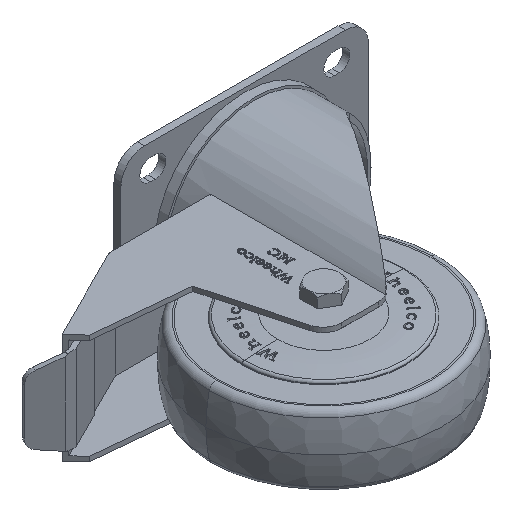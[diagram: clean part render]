
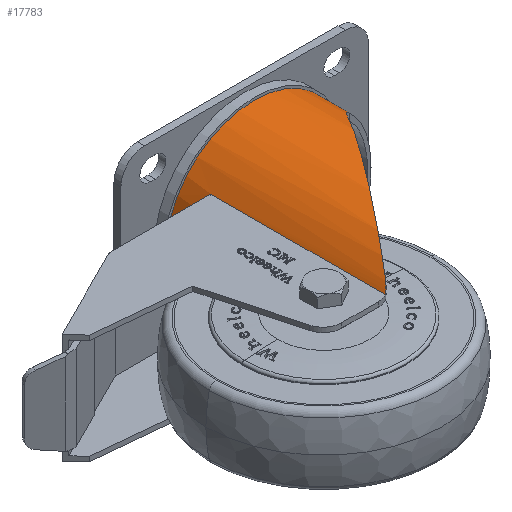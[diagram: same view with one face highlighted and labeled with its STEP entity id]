
A CAD part, isometric view. The second image highlights one B-rep face of the part: STEP entity #17783.
In plain terms, the highlighted cylindrical face has radius 37.5 mm (diameter 75 mm), a partial arc.
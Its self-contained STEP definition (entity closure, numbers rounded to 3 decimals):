
#585 = LINE ( 'NONE', #20040, #32704 ) ;
#615 = CARTESIAN_POINT ( 'NONE',  ( 30.98, 68.158, -21.134 ) ) ;
#692 = VERTEX_POINT ( 'NONE', #17096 ) ;
#955 = DIRECTION ( 'NONE',  ( 0., 1., 0. ) ) ;
#1334 = ORIENTED_EDGE ( 'NONE', *, *, #14805, .F. ) ;
#1385 = ORIENTED_EDGE ( 'NONE', *, *, #14216, .T. ) ;
#1421 = DIRECTION ( 'NONE',  ( 0., -1., 0. ) ) ;
#2099 = CARTESIAN_POINT ( 'NONE',  ( 39.691, 20.993, 13.851 ) ) ;
#2317 = CYLINDRICAL_SURFACE ( 'NONE', #31386, 37.5 ) ;
#2995 = CARTESIAN_POINT ( 'NONE',  ( 10.738, 74., -37.5 ) ) ;
#3076 = CARTESIAN_POINT ( 'NONE',  ( 25.608, 2.761, 27.396 ) ) ;
#3211 = VERTEX_POINT ( 'NONE', #25152 ) ;
#4776 = CIRCLE ( 'NONE', #23353, 37.5 ) ;
#5811 = CARTESIAN_POINT ( 'NONE',  ( 25.184, 2.342, 27.787 ) ) ;
#6432 = VECTOR ( 'NONE', #26967, 1000. ) ;
#6960 = VERTEX_POINT ( 'NONE', #10775 ) ;
#7902 = CARTESIAN_POINT ( 'NONE',  ( 41.736, 46.459, -5.038 ) ) ;
#8234 = VECTOR ( 'NONE', #1421, 1000. ) ;
#8633 = VERTEX_POINT ( 'NONE', #21045 ) ;
#9389 = LINE ( 'NONE', #21040, #8234 ) ;
#10328 = EDGE_LOOP ( 'NONE', ( #33128, #27545, #27990, #26689, #1385, #1334, #33146, #28547, #21351 ) ) ;
#10775 = CARTESIAN_POINT ( 'NONE',  ( 0., 74., -37.5 ) ) ;
#10968 = AXIS2_PLACEMENT_3D ( 'NONE', #29552, #12995, #15705 ) ;
#11033 = CARTESIAN_POINT ( 'NONE',  ( 0., 75., 37.5 ) ) ;
#11483 = VERTEX_POINT ( 'NONE', #11861 ) ;
#11861 = CARTESIAN_POINT ( 'NONE',  ( 23.25, 75., 29.423 ) ) ;
#12517 = CARTESIAN_POINT ( 'NONE',  ( 25.999, 3.234, 27.024 ) ) ;
#12629 =( BOUNDED_CURVE ( )  B_SPLINE_CURVE ( 3, ( #25002, #2995, #28279, #14443 ),
 .UNSPECIFIED., .F., .F. ) 
 B_SPLINE_CURVE_WITH_KNOTS ( ( 4, 4 ),
 ( 3.142, 3.975 ),
 .UNSPECIFIED. ) 
 CURVE ( )  GEOMETRIC_REPRESENTATION_ITEM ( )  RATIONAL_B_SPLINE_CURVE ( ( 1., 0.943, 0.943, 1. ) ) 
 REPRESENTATION_ITEM ( '' )  );
#12832 = CARTESIAN_POINT ( 'NONE',  ( 25.999, 3.234, 27.024 ) ) ;
#12995 = DIRECTION ( 'NONE',  ( 0., -1., 0. ) ) ;
#13406 = DIRECTION ( 'NONE',  ( 0., -1., 0. ) ) ;
#13606 =( BOUNDED_CURVE ( )  B_SPLINE_CURVE ( 3, ( #29574, #7902, #2099, #12832 ),
 .UNSPECIFIED., .F., .F. ) 
 B_SPLINE_CURVE_WITH_KNOTS ( ( 4, 4 ),
 ( 4.123, 5.517 ),
 .UNSPECIFIED. ) 
 CURVE ( )  GEOMETRIC_REPRESENTATION_ITEM ( )  RATIONAL_B_SPLINE_CURVE ( ( 1., 0.845, 0.845, 1. ) ) 
 REPRESENTATION_ITEM ( '' )  );
#13913 = CARTESIAN_POINT ( 'NONE',  ( 29.998, 69.441, -22.508 ) ) ;
#13939 = B_SPLINE_CURVE_WITH_KNOTS ( 'NONE', 3,
 ( #19439, #33677, #19975, #28360, #5811, #3076, #14180, #30561 ),
 .UNSPECIFIED., .F., .F.,
 ( 4, 2, 2, 4 ),
 ( 0., 0.002, 0.003, 0.004 ),
 .UNSPECIFIED. ) ;
#13962 = EDGE_CURVE ( 'NONE', #11483, #29232, #30757, .T. ) ;
#14180 = CARTESIAN_POINT ( 'NONE',  ( 25.811, 2.989, 27.205 ) ) ;
#14216 = EDGE_CURVE ( 'NONE', #8633, #14316, #13939, .T. ) ;
#14316 = VERTEX_POINT ( 'NONE', #12517 ) ;
#14443 = CARTESIAN_POINT ( 'NONE',  ( 27.771, 70.72, -25.2 ) ) ;
#14805 = EDGE_CURVE ( 'NONE', #22601, #14316, #13606, .T. ) ;
#15705 = DIRECTION ( 'NONE',  ( 0., 0., -1. ) ) ;
#16445 = CARTESIAN_POINT ( 'NONE',  ( 29.417, 69.933, -23.262 ) ) ;
#17096 = CARTESIAN_POINT ( 'NONE',  ( 27.771, 70.72, -25.2 ) ) ;
#17159 = CARTESIAN_POINT ( 'NONE',  ( 30.758, 68.516, -21.457 ) ) ;
#17783 = ADVANCED_FACE ( 'NONE', ( #24325 ), #2317, .T. ) ;
#18860 = CARTESIAN_POINT ( 'NONE',  ( 0., 86., 0. ) ) ;
#19308 = DIRECTION ( 'NONE',  ( 0., 0., 1. ) ) ;
#19439 = CARTESIAN_POINT ( 'NONE',  ( 23.25, 1.087, 29.423 ) ) ;
#19495 = CARTESIAN_POINT ( 'NONE',  ( 0., 86., 0. ) ) ;
#19708 = CARTESIAN_POINT ( 'NONE',  ( 31.179, 67.756, -20.836 ) ) ;
#19733 = EDGE_CURVE ( 'NONE', #34392, #6960, #22035, .T. ) ;
#19975 = CARTESIAN_POINT ( 'NONE',  ( 24.272, 1.621, 28.592 ) ) ;
#20040 = CARTESIAN_POINT ( 'NONE',  ( 23.25, 86., 29.423 ) ) ;
#21040 = CARTESIAN_POINT ( 'NONE',  ( 0., 86., 37.5 ) ) ;
#21045 = CARTESIAN_POINT ( 'NONE',  ( 23.25, 1.087, 29.423 ) ) ;
#21351 = ORIENTED_EDGE ( 'NONE', *, *, #19733, .F. ) ;
#21803 = EDGE_CURVE ( 'NONE', #3211, #29232, #9389, .T. ) ;
#22035 = LINE ( 'NONE', #29880, #6432 ) ;
#22446 = CARTESIAN_POINT ( 'NONE',  ( 30.267, 69.157, -22.143 ) ) ;
#22601 = VERTEX_POINT ( 'NONE', #19708 ) ;
#22615 = CARTESIAN_POINT ( 'NONE',  ( 31.179, 67.756, -20.836 ) ) ;
#22864 = EDGE_CURVE ( 'NONE', #3211, #34392, #4776, .T. ) ;
#23353 = AXIS2_PLACEMENT_3D ( 'NONE', #19495, #32823, #19308 ) ;
#24025 = EDGE_CURVE ( 'NONE', #8633, #11483, #585, .T. ) ;
#24325 = FACE_OUTER_BOUND ( 'NONE', #10328, .T. ) ;
#25002 = CARTESIAN_POINT ( 'NONE',  ( 0., 74., -37.5 ) ) ;
#25152 = CARTESIAN_POINT ( 'NONE',  ( 0., 86., 37.5 ) ) ;
#25183 = CARTESIAN_POINT ( 'NONE',  ( 27.771, 70.72, -25.2 ) ) ;
#26689 = ORIENTED_EDGE ( 'NONE', *, *, #24025, .F. ) ;
#26967 = DIRECTION ( 'NONE',  ( 0., -1., 0. ) ) ;
#27545 = ORIENTED_EDGE ( 'NONE', *, *, #21803, .T. ) ;
#27739 = CARTESIAN_POINT ( 'NONE',  ( 28.465, 70.48, -24.419 ) ) ;
#27990 = ORIENTED_EDGE ( 'NONE', *, *, #13962, .F. ) ;
#28279 = CARTESIAN_POINT ( 'NONE',  ( 20.555, 72.84, -33.151 ) ) ;
#28360 = CARTESIAN_POINT ( 'NONE',  ( 24.963, 2.15, 27.986 ) ) ;
#28547 = ORIENTED_EDGE ( 'NONE', *, *, #30424, .F. ) ;
#29232 = VERTEX_POINT ( 'NONE', #11033 ) ;
#29552 = CARTESIAN_POINT ( 'NONE',  ( 0., 75., 0. ) ) ;
#29574 = CARTESIAN_POINT ( 'NONE',  ( 31.179, 67.756, -20.836 ) ) ;
#29880 = CARTESIAN_POINT ( 'NONE',  ( 0., 86., -37.5 ) ) ;
#30389 = EDGE_CURVE ( 'NONE', #22601, #692, #34948, .T. ) ;
#30424 = EDGE_CURVE ( 'NONE', #6960, #692, #12629, .T. ) ;
#30561 = CARTESIAN_POINT ( 'NONE',  ( 25.999, 3.234, 27.024 ) ) ;
#30655 = CARTESIAN_POINT ( 'NONE',  ( 29.11, 70.139, -23.645 ) ) ;
#30757 = CIRCLE ( 'NONE', #10968, 37.5 ) ;
#31386 = AXIS2_PLACEMENT_3D ( 'NONE', #18860, #13406, #35652 ) ;
#31480 = CARTESIAN_POINT ( 'NONE',  ( 0., 86., -37.5 ) ) ;
#32704 = VECTOR ( 'NONE', #955, 1000. ) ;
#32823 = DIRECTION ( 'NONE',  ( 0., 1., 0. ) ) ;
#33128 = ORIENTED_EDGE ( 'NONE', *, *, #22864, .F. ) ;
#33146 = ORIENTED_EDGE ( 'NONE', *, *, #30389, .T. ) ;
#33677 = CARTESIAN_POINT ( 'NONE',  ( 23.777, 1.33, 29.006 ) ) ;
#33949 = CARTESIAN_POINT ( 'NONE',  ( 28.125, 70.616, -24.81 ) ) ;
#34392 = VERTEX_POINT ( 'NONE', #31480 ) ;
#34948 = B_SPLINE_CURVE_WITH_KNOTS ( 'NONE', 3,
 ( #22615, #615, #17159, #22446, #13913, #16445, #30655, #27739, #33949, #25183 ),
 .UNSPECIFIED., .F., .F.,
 ( 4, 2, 2, 2, 4 ),
 ( 0., 0.002, 0.003, 0.005, 0.006 ),
 .UNSPECIFIED. ) ;
#35652 = DIRECTION ( 'NONE',  ( 0., 0., -1. ) ) ;
